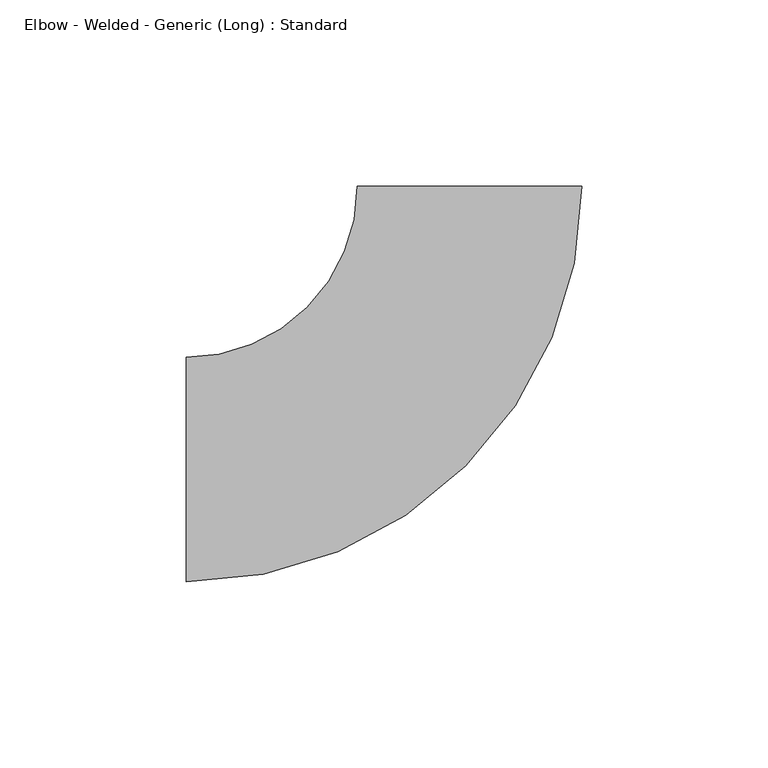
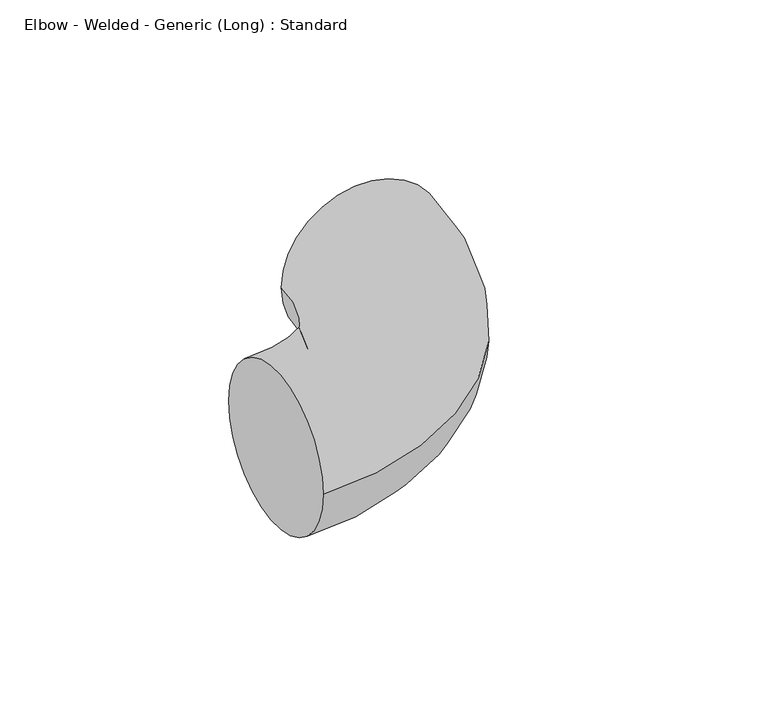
"""IFC4 building model written with IfcOpenShell, lengths in millimetres: pipe fitting geometry, Elbow - Welded - Generic (Long) : Standard."""

import ifcopenshell
import ifcopenshell.guid

model = None  # the IFC model being written
_history = None  # IfcOwnerHistory: only IFC2X3 demands one
_inside = {}  # id of a spatial element -> (the spatial element, [elements in it])
_under = {}  # id of a project, library or spatial element -> (it, [spatial elements below it])
_declared = {}  # id of a project -> (the project, [libraries it declares])
_typed = {}  # id of a type object -> (the type object, [elements of that type])
_made_of = {}  # id of a material, layer set ... -> (it, [elements and type objects made of it])


def new_model(schema):
    """Start an empty IFC model of exactly this schema.

    Asked for "IFC4X3", IfcOpenShell would pick the latest addendum, in which some entities
    have other attributes; the version numbers below select the first issue.
    IFC2X3 requires an IfcOwnerHistory on every rooted entity: one is made here for all.
    """
    global model, _history
    if schema == "IFC4X3":
        model = ifcopenshell.file(schema_version=(4, 3, 0, 0))
    else:
        model = ifcopenshell.file(schema=schema)
    _inside.clear()
    _under.clear()
    _declared.clear()
    _typed.clear()
    _made_of.clear()
    _history = None
    if model.schema == "IFC2X3":
        org = make("IfcOrganization", Name="unknown")
        user = make(
            "IfcPersonAndOrganization",
            ThePerson=make("IfcPerson", FamilyName="unknown"),
            TheOrganization=org,
        )
        app = make(
            "IfcApplication",
            ApplicationDeveloper=org,
            Version="unknown",
            ApplicationFullName="unknown",
            ApplicationIdentifier="unknown",
        )
        _history = make(
            "IfcOwnerHistory",
            OwningUser=user,
            OwningApplication=app,
            ChangeAction="ADDED",
            CreationDate=0,
        )
    return model


def make(cls, **values):
    """One entity of the class cls with the attributes given. An attribute that is None is left unset."""
    return model.create_entity(
        cls, **{name: value for name, value in values.items() if value is not None}
    )


def rooted(cls, **values):
    """An entity with a GlobalId (a new one), such as an element, a storey or a relation."""
    return make(cls, GlobalId=ifcopenshell.guid.new(), OwnerHistory=_history, **values)


def si_unit(unit_type, name, prefix=None):
    """IfcSIUnit, for example si_unit("LENGTHUNIT", "METRE", prefix="MILLI")."""
    return make("IfcSIUnit", UnitType=unit_type, Prefix=prefix, Name=name)


def assignment(units):
    """IfcUnitAssignment: the units of a project."""
    return None if units is None else make("IfcUnitAssignment", Units=units)


def point(xyz):
    """IfcCartesianPoint."""
    return None if xyz is None else make("IfcCartesianPoint", Coordinates=xyz)


def direction(xyz):
    """IfcDirection."""
    return None if xyz is None else make("IfcDirection", DirectionRatios=xyz)


def frame(location, z_axis=None, x_axis=None):
    """IfcAxis2Placement3D, a coordinate frame: its origin and axes. An axis left out is left unset."""
    return make(
        "IfcAxis2Placement3D",
        Location=point(location),
        Axis=direction(z_axis),
        RefDirection=direction(x_axis),
    )


def origin():
    """The frame at (0, 0, 0) with its axes left unset."""
    return frame((0.0, 0.0, 0.0))


def place(relative_to, where):
    """IfcLocalPlacement: puts the frame where relative to a parent placement (None: the world)."""
    return make(
        "IfcLocalPlacement", PlacementRelTo=relative_to, RelativePlacement=where
    )


def context(
    kind, dimensions, precision=None, world=None, true_north=None, identifier=None
):
    """IfcGeometricRepresentationContext, for example the 3D "Model" context."""
    return make(
        "IfcGeometricRepresentationContext",
        ContextIdentifier=identifier,
        ContextType=kind,
        CoordinateSpaceDimension=dimensions,
        Precision=precision,
        WorldCoordinateSystem=world,
        TrueNorth=true_north,
    )


def project(units=None, contexts=None):
    """IfcProject with its units and contexts."""
    return rooted(
        "IfcProject",
        Name="project",
        RepresentationContexts=contexts,
        UnitsInContext=assignment(units),
    )


def spatial(cls, under=None, at=None, **own):
    """A site, building, storey or space (cls), placed at a placement, below another one or the project."""
    s = rooted(cls, ObjectPlacement=at, **own)
    if under is not None:
        _under.setdefault(under.id(), (under, []))[1].append(s)
    return s


def circle_curve(where, radius):
    """IfcCircle in the frame where."""
    return make("IfcCircle", Position=where, Radius=radius)


def ellipse_curve(where, semi_axis1, semi_axis2):
    """IfcEllipse in the frame where."""
    return make(
        "IfcEllipse", Position=where, SemiAxis1=semi_axis1, SemiAxis2=semi_axis2
    )


def trimmed(basis, trim1, trim2, sense, master):
    """IfcTrimmedCurve: the piece of a basis curve between two trims."""
    return make(
        "IfcTrimmedCurve",
        BasisCurve=basis,
        Trim1=trim1,
        Trim2=trim2,
        SenseAgreement=sense,
        MasterRepresentation=master,
    )


def shape(context_of_items, identifier, shape_type, items):
    """IfcShapeRepresentation: the items that make up one representation, for example the "Body"."""
    return make(
        "IfcShapeRepresentation",
        ContextOfItems=context_of_items,
        RepresentationIdentifier=identifier,
        RepresentationType=shape_type,
        Items=items,
    )


def source(mapping_origin, context_of_items, identifier, shape_type, items):
    """IfcRepresentationMap: a shape defined once, which mapped items show again and again."""
    return make(
        "IfcRepresentationMap",
        MappingOrigin=mapping_origin,
        MappedRepresentation=shape(context_of_items, identifier, shape_type, items),
    )


def transform(
    local_origin,
    x_axis=None,
    y_axis=None,
    z_axis=None,
    scale=None,
    scale2=None,
    scale3=None,
    uniform=True,
):
    """IfcCartesianTransformationOperator3D, or its non-uniform kind. x_axis, y_axis, z_axis: its Axis1, 2, 3."""
    if uniform:
        return make(
            "IfcCartesianTransformationOperator3D",
            Axis1=direction(x_axis),
            Axis2=direction(y_axis),
            LocalOrigin=point(local_origin),
            Scale=scale,
            Axis3=direction(z_axis),
        )
    return make(
        "IfcCartesianTransformationOperator3DnonUniform",
        Axis1=direction(x_axis),
        Axis2=direction(y_axis),
        LocalOrigin=point(local_origin),
        Scale=scale,
        Axis3=direction(z_axis),
        Scale2=scale2,
        Scale3=scale3,
    )


def mapped(mapping_source, mapping_target):
    """IfcMappedItem: shows the shape of a source again, moved by a transform."""
    return make(
        "IfcMappedItem", MappingSource=mapping_source, MappingTarget=mapping_target
    )


def made_of(thing, what):
    """Note that an element or type object is made of a material, layer set ...; save() writes the relation."""
    if what is not None:
        _made_of.setdefault(what.id(), (what, []))[1].append(thing)
    return thing


def element(
    cls,
    number,
    at=None,
    inside=None,
    cuts=None,
    type_object=None,
    material=None,
    context=None,
    identifier="Body",
    shape_type=None,
    held_by="IfcProductDefinitionShape",
    body=None,
    shapes=None,
    **own,
):
    """One element of the class cls, such as IfcWall. Its Tag is "e" and its number.

    at: its placement. inside: the storey or other place that contains it. cuts: it is an
    opening in that element (IfcRelVoidsElement). A single representation is given by context,
    identifier, shape_type and body (its items); several are given by shapes. held_by: the class
    of the entity that holds the representations. save() writes the other relations.
    """
    e = rooted(cls, Tag="e%d" % number, ObjectPlacement=at, **own)
    if body is not None:
        shapes = [shape(context, identifier, shape_type, body)]
    if shapes is not None:
        e.Representation = make(held_by, Representations=shapes)
    if inside is not None:
        _inside.setdefault(inside.id(), (inside, []))[1].append(e)
    if cuts is not None:
        rooted(
            "IfcRelVoidsElement", RelatingBuildingElement=cuts, RelatedOpeningElement=e
        )
    if type_object is not None:
        _typed.setdefault(type_object.id(), (type_object, []))[1].append(e)
    return made_of(e, material)


def aggregate(whole, parts):
    """IfcRelAggregates: a whole, such as a stair, and the parts it consists of."""
    return rooted("IfcRelAggregates", RelatingObject=whole, RelatedObjects=parts)


def save(model, path):
    """Write the relations noted so far, then the file.

    IfcRelAggregates (storeys below a building ...), IfcRelContainedInSpatialStructure (elements
    in a storey), IfcRelDefinesByType, IfcRelAssociatesMaterial and IfcRelDeclares: one each for
    every whole, place, type object, material and project.
    """
    for whole, parts in _under.values():
        aggregate(whole, parts)
    for where, things in _inside.values():
        rooted(
            "IfcRelContainedInSpatialStructure",
            RelatedElements=things,
            RelatingStructure=where,
        )
    for kind, things in _typed.values():
        rooted("IfcRelDefinesByType", RelatedObjects=things, RelatingType=kind)
    for what, things in _made_of.values():
        rooted("IfcRelAssociatesMaterial", RelatedObjects=things, RelatingMaterial=what)
    for by, libraries in _declared.values():
        rooted("IfcRelDeclares", RelatingContext=by, RelatedDefinitions=libraries)
    model.write(path)


def plane_surface(at):
    """IfcPlane: the flat surface through the origin of the frame at, square to its z axis."""
    return make("IfcPlane", Position=at)


def revolved_surface(curve, axis_point, axis_direction):
    """IfcSurfaceOfRevolution: the curve turned about the line through axis_point along axis_direction."""
    return make(
        "IfcSurfaceOfRevolution",
        SweptCurve=make("IfcArbitraryOpenProfileDef", ProfileType="CURVE", Curve=curve),
        AxisPosition=make("IfcAxis1Placement", Location=point(axis_point), Axis=direction(axis_direction)),
    )


def advanced_brep(points, edges, surfaces, faces):
    """IfcAdvancedBrep: a solid bounded by faces that lie on surfaces and meet in shared edges.

    An edge is (start, end): straight between two places in points (the first is 0);
    or (start, end, curve); or (start, end, curve, False) where it runs against its curve.
    A face is (place in surfaces, loops), or (place, loops, False) where it looks against
    its surface's normal. A loop lists edges by number (the first is 1), with a minus sign
    where the edge is run from its end to its start. The first loop is the outer one.
    """
    corners = [point(p) for p in points]
    vertices = [make("IfcVertexPoint", VertexGeometry=c) for c in corners]
    made = []
    for start, end, *more in edges:
        made.append(
            make(
                "IfcEdgeCurve",
                EdgeStart=vertices[start],
                EdgeEnd=vertices[end],
                EdgeGeometry=more[0] if more else make("IfcPolyline", Points=[corners[start], corners[end]]),
                SameSense=more[1] if len(more) > 1 else True,
            )
        )
    hull = []
    for where, loops, *sense in faces:
        bounds = []
        for j, loop in enumerate(loops):
            ring = [make("IfcOrientedEdge", EdgeElement=made[abs(k) - 1], Orientation=k > 0) for k in loop]
            bounds.append(
                make(
                    "IfcFaceOuterBound" if j == 0 else "IfcFaceBound",
                    Bound=make("IfcEdgeLoop", EdgeList=ring),
                    Orientation=True,
                )
            )
        hull.append(make("IfcAdvancedFace", Bounds=bounds, FaceSurface=surfaces[where], SameSense=sense[0] if sense else True))
    return make("IfcAdvancedBrep", Outer=make("IfcClosedShell", CfsFaces=hull))


def elbow_welded_generic_long_standard_b8b2e296(model_context):
    return source(origin(), model_context, "Body", "AdvancedBrep", [
        advanced_brep(
        [(-76.2, -30.1625, 0.0), (-76.2, 30.1625, 0.0), (30.1624759, 76.2000095, 0.0), (-30.1625241, 76.1999905, 0.0)],
        [
            (0, 1, circle_curve(frame((-76.2, 0.0, 0.0), z_axis=(-1.0, 0.0, 0.0), x_axis=(0.0, 1.0, 0.0)), 30.1625)),
            (1, 0, circle_curve(frame((-76.2, 0.0, 0.0), z_axis=(-1.0, 0.0, 0.0), x_axis=(0.0, 1.0, 0.0)), 30.1625)),
            (2, 3, circle_curve(frame((-2.41e-05, 76.2, 0.0), z_axis=(-3.165871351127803e-07, 0.9999999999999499, 0.0), x_axis=(-0.9999999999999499, -3.165871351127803e-07, 0.0)), 30.1625)),
            (3, 2, circle_curve(frame((-2.41e-05, 76.2, 0.0), z_axis=(-3.165871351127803e-07, 0.9999999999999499, 0.0), x_axis=(-0.9999999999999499, -3.165871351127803e-07, 0.0)), 30.1625)),
            (3, 1, circle_curve(frame((-76.2, 76.1999759, 0.0), z_axis=(0.0, 0.0, -1.0), x_axis=(0.0, -1.0, 0.0)), 46.0374759)),
            (0, 2, circle_curve(frame((-76.2, 76.1999759, 0.0), z_axis=(0.0, 0.0, 1.0), x_axis=(0.0, -1.0, 0.0)), 106.3624759)),
        ],
        [
            plane_surface(frame((-76.2, 0.0, 0.0), z_axis=(-1.0, 0.0, 0.0), x_axis=(0.0, 0.0, 1.0))),
            plane_surface(frame((-2.41e-05, 76.2, 0.0), z_axis=(-3.1658713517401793e-07, 0.99999999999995, 0.0), x_axis=(0.0, 0.0, 1.0))),
            revolved_surface(trimmed(ellipse_curve(frame((-76.2, 0.0, 0.0), z_axis=(-1.0, 0.0, 0.0), x_axis=(0.0, 1.0, 0.0)), 30.1625, 30.1625), [point((-76.2, -30.1625, 0.0))], [point((-76.2, 30.1625, 0.0))], True, "CARTESIAN"), (-76.2, 76.1999759, 0.0), (0.0, 0.0, 1.0)),
            revolved_surface(trimmed(ellipse_curve(frame((-76.2, 0.0, 0.0), z_axis=(-1.0, 0.0, 0.0), x_axis=(0.0, 1.0, 0.0)), 30.1625, 30.1625), [point((-76.2, 30.1625, 0.0))], [point((-76.2, -30.1625, 0.0))], True, "CARTESIAN"), (-76.2, 76.1999759, 0.0), (0.0, 0.0, 1.0)),
        ],
        [
            (0, [[1, 2]]),
            (1, [[3, 4]]),
            (2, [[5, -1, 6, -4]]),
            (3, [[-6, -2, -5, -3]]),
        ],
    ),
    ])


if __name__ == "__main__":
    model = new_model("IFC4")
    model_context = context("Model", 3, world=origin())
    ifc_project = project(units=[si_unit("LENGTHUNIT", "METRE", prefix="MILLI")], contexts=[model_context])
    site = spatial("IfcSite", under=ifc_project)
    building = spatial("IfcBuilding", under=site)
    placement = place(None, origin())
    elbow_welded_generic_long_standard_shape = elbow_welded_generic_long_standard_b8b2e296(model_context)
    element("IfcPipeFitting", 1, ObjectType="Elbow - Welded - Generic (Long) : Standard", at=placement, inside=building, context=model_context, shape_type="MappedRepresentation", body=[
        mapped(elbow_welded_generic_long_standard_shape, transform((0.0, 0.0, 0.0), x_axis=(1.0, 0.0, 0.0), y_axis=(0.0, 1.0, 0.0), z_axis=(0.0, 0.0, 1.0))),
    ])
    save(model, "model.ifc")
